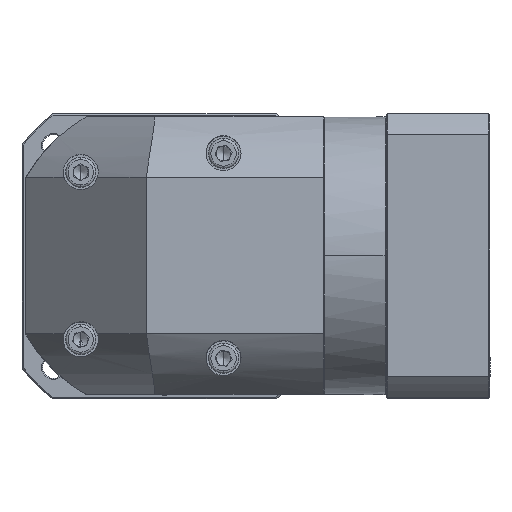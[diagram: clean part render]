
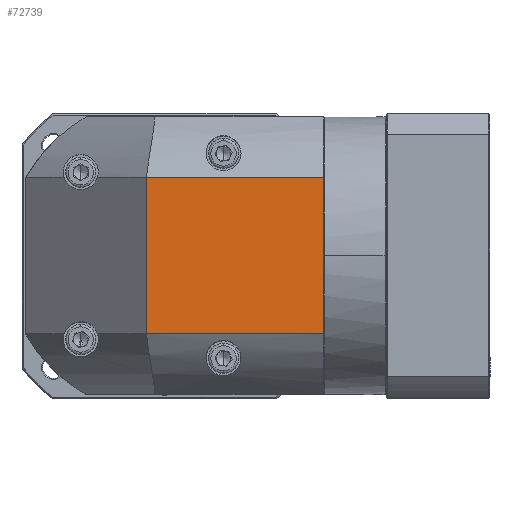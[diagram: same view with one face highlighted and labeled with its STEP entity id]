
A CAD part, top view. The second image highlights one B-rep face of the part: STEP entity #72739.
In plain terms, the highlighted planar face has unit normal (0, 0, 1).
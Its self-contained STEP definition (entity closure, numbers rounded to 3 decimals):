
#1130 = LINE ( 'NONE', #117234, #28775 ) ;
#7654 = VERTEX_POINT ( 'NONE', #14233 ) ;
#10117 = LINE ( 'NONE', #83582, #78220 ) ;
#10655 = EDGE_CURVE ( 'NONE', #111180, #125473, #1130, .T. ) ;
#14233 = CARTESIAN_POINT ( 'NONE',  ( 37.833, 101.219, 67.055 ) ) ;
#15215 = CARTESIAN_POINT ( 'NONE',  ( 111.233, 126.319, 67.055 ) ) ;
#15760 = LINE ( 'NONE', #15215, #111260 ) ;
#16954 = AXIS2_PLACEMENT_3D ( 'NONE', #40179, #92654, #133730 ) ;
#18247 = ORIENTED_EDGE ( 'NONE', *, *, #69120, .F. ) ;
#19885 = VERTEX_POINT ( 'NONE', #74179 ) ;
#23361 = ORIENTED_EDGE ( 'NONE', *, *, #10655, .F. ) ;
#28775 = VECTOR ( 'NONE', #94707, 1000. ) ;
#40179 = CARTESIAN_POINT ( 'NONE',  ( 45.333, 68.819, 67.055 ) ) ;
#46016 = CARTESIAN_POINT ( 'NONE',  ( -12.167, 101.219, 67.055 ) ) ;
#52763 = DIRECTION ( 'NONE',  ( 0., 1., 0. ) ) ;
#55068 = ORIENTED_EDGE ( 'NONE', *, *, #101310, .F. ) ;
#55504 = DIRECTION ( 'NONE',  ( 0., -1., 0. ) ) ;
#66181 = VECTOR ( 'NONE', #66363, 1000. ) ;
#66363 = DIRECTION ( 'NONE',  ( 1., 0., 0. ) ) ;
#69120 = EDGE_CURVE ( 'NONE', #125473, #7654, #10117, .T. ) ;
#72739 = ADVANCED_FACE ( 'NONE', ( #96792 ), #82261, .F. ) ;
#74179 = CARTESIAN_POINT ( 'NONE',  ( 111.233, 101.219, 67.055 ) ) ;
#78220 = VECTOR ( 'NONE', #52763, 1000. ) ;
#82261 = PLANE ( 'NONE',  #16954 ) ;
#83582 = CARTESIAN_POINT ( 'NONE',  ( 37.833, 126.319, 67.055 ) ) ;
#92654 = DIRECTION ( 'NONE',  ( 0., 0., -1. ) ) ;
#94707 = DIRECTION ( 'NONE',  ( -1., 0., 0. ) ) ;
#96792 = FACE_OUTER_BOUND ( 'NONE', #102695, .T. ) ;
#101310 = EDGE_CURVE ( 'NONE', #7654, #19885, #105071, .T. ) ;
#102695 = EDGE_LOOP ( 'NONE', ( #55068, #18247, #23361, #130519 ) ) ;
#105071 = LINE ( 'NONE', #46016, #66181 ) ;
#109041 = EDGE_CURVE ( 'NONE', #19885, #111180, #15760, .T. ) ;
#111180 = VERTEX_POINT ( 'NONE', #133236 ) ;
#111260 = VECTOR ( 'NONE', #55504, 1000. ) ;
#117234 = CARTESIAN_POINT ( 'NONE',  ( -12.167, 36.419, 67.055 ) ) ;
#123862 = CARTESIAN_POINT ( 'NONE',  ( 37.833, 36.419, 67.055 ) ) ;
#125473 = VERTEX_POINT ( 'NONE', #123862 ) ;
#130519 = ORIENTED_EDGE ( 'NONE', *, *, #109041, .F. ) ;
#133236 = CARTESIAN_POINT ( 'NONE',  ( 111.233, 36.419, 67.055 ) ) ;
#133730 = DIRECTION ( 'NONE',  ( 0., -1., 0. ) ) ;
